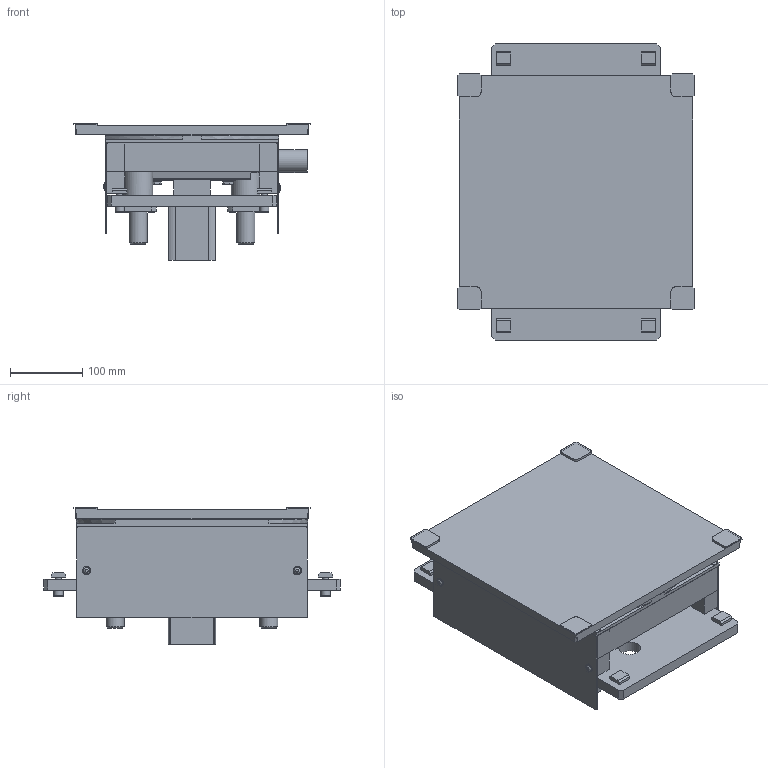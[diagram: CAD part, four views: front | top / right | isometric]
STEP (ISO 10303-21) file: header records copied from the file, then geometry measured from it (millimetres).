
FILE_DESCRIPTION(/* description */ (''),/* implementation_level */ '2;1');
FILE_NAME(/* name */ 'C:\Marketing\01_Versamove-SPU_STEP-Dateien-Homepage\VersamoveStandard\B400\STEP-Dateien\Hubdreheinheit_HDE-2045_B400.stp',/* time_stamp */ '2016-12-21T10:37:08+01:00',/* author */ ('herbert.engels'),/* organization */ (''),/* preprocessor_version */ 'ST-DEVELOPER v15.6',/* originating_system */ 'Autodesk Inventor 2015',/* authorisation */ '');
FILE_SCHEMA (('CONFIG_CONTROL_DESIGN'));
Length unit declared in the file: millimetre
Products named in the file (1): Hubdreheinheit_HDE-2045_B400
Bounding box: 327 x 410 x 189.35 mm (x, y, z)
Volume: 5325241.4 mm3; surface area: 908264 mm2
Topology: 1 solids, 1 shells, 465 faces, 1142 edges, 744 vertices
Faces by surface type: plane 285, cylinder 111, cone 49, torus 16, sphere 4
Full cylindrical faces by diameter (mm): 5 x4, 5.5 x4, 5.9 x1, 8 x4, 10 x4, 10.917 x3, 11.4 x2, 11.8 x4, 13 x10, 15 x4, 25 x4, 26.5 x2, 29 x2, 30 x2, 31.9 x4, 40 x2, 54.2 x1, 55 x1, 81 x1
Entity records: 13538 total; most frequent: CARTESIAN_POINT 2362, DIRECTION 2208, ORIENTED_EDGE 2032, EDGE_CURVE 1016, AXIS2_PLACEMENT_3D 794, VERTEX_POINT 712, EDGE_LOOP 642, LINE 620
